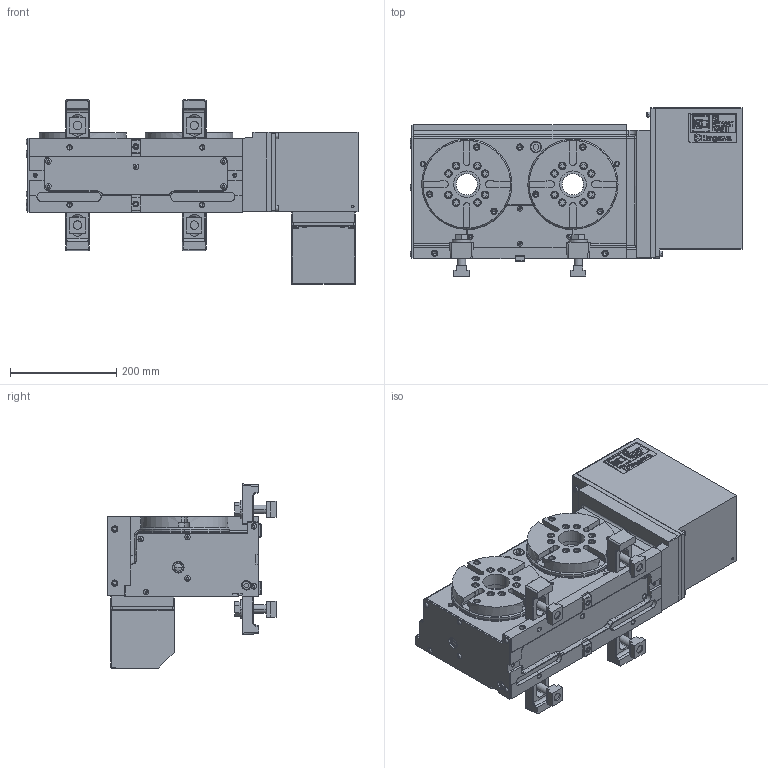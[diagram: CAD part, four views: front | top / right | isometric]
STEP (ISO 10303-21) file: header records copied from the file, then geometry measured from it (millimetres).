
FILE_DESCRIPTION (( 'STEP AP214' ), '1' );
FILE_NAME ('TM2160AF.STEP', '2021-07-29T23:07:48', ( '' ), ( '' ), 'SwSTEP 2.0', 'SolidWorks 2020', '' );
FILE_SCHEMA (( 'AUTOMOTIVE_DESIGN' ));
Length unit declared in the file: millimetre
Products named in the file (15): モータケース(61E2814420)TM2160AF17-1; フランジ(61E8100390)TM2160AF12-1; TM2160AF; ギヤボックス(61E2411072)TM2160A00-1; コネクタカバー(61E363968)-1; TM2160AF18儂儞僞僀-2; オイルゲージ 207-1; スペーサ(61E4518721)TH2160AF01-1; 儂儞僞僀ASSY(61E1148630)TM2160A00-1; テーブル(61E8457760)TM2160A00-1; TM2160A00儂儞僞僀(61E109614)-1; コネクタプレート(61E4480221)-1; CLAMPING PARTS(61E424758)結合-1; ガイドブロック(61M4197783)-1; キタガワシール-1
Assembly tree (19 placements, depth 4):
  TM2160AF
    TM2160AF18儂儞僞僀-2
      TM2160A00儂儞僞僀(61E109614)-1
        儂儞僞僀ASSY(61E1148630)TM2160A00-1
        ギヤボックス(61E2411072)TM2160A00-1
        テーブル(61E8457760)TM2160A00-1  x2
        オイルゲージ 207-1
      ガイドブロック(61M4197783)-1  x2
      キタガワシール-1
      フランジ(61E8100390)TM2160AF12-1
      モータケース(61E2814420)TM2160AF17-1
      スペーサ(61E4518721)TH2160AF01-1
      コネクタプレート(61E4480221)-1
      コネクタカバー(61E363968)-1
    CLAMPING PARTS(61E424758)結合-1  x4
Bounding box: 625.5 x 317 x 347 mm (x, y, z)
Volume: 20988237.4 mm3; surface area: 1342794.5 mm2
Topology: 17 solids, 17 shells, 3423 faces, 8878 edges, 5786 vertices
Faces by surface type: plane 2468, cylinder 675, cone 216, torus 46, bspline 14, sphere 4
Entity records: 99922 total; most frequent: CARTESIAN_POINT 16623, ORIENTED_EDGE 15722, DIRECTION 15251, EDGE_CURVE 7861, VECTOR 6449, LINE 6449, VERTEX_POINT 5177, AXIS2_PLACEMENT_3D 4401
